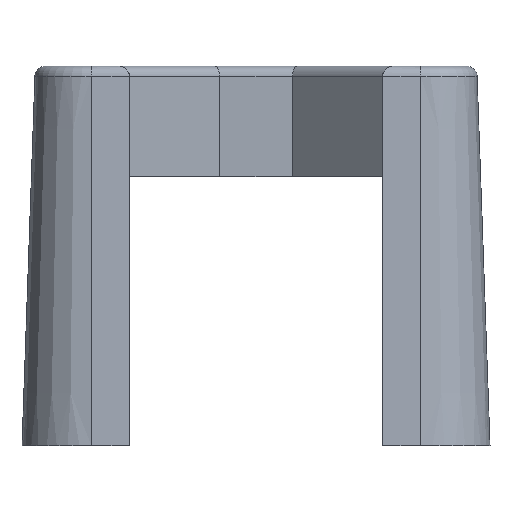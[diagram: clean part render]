
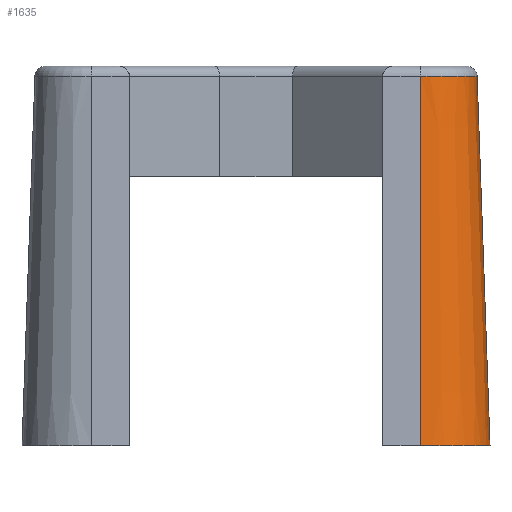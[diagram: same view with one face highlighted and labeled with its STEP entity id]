
A CAD part, front view. The second image highlights one B-rep face of the part: STEP entity #1635.
In plain terms, the highlighted conical face has half-angle 2 degrees and reference radius 5.7 mm.
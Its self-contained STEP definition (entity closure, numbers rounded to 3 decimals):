
#892=CARTESIAN_POINT('',(243.366,100.852,9.535));
#893=VERTEX_POINT('',#892);
#924=CARTESIAN_POINT('',(237.999,95.484,9.535));
#925=VERTEX_POINT('',#924);
#933=CARTESIAN_POINT('',(237.999,100.852,9.535));
#934=DIRECTION('',(0.0,0.0,1.));
#935=DIRECTION('',(0.707,-0.707,0.0));
#936=AXIS2_PLACEMENT_3D('',#933,#934,#935);
#937=CIRCLE('',#936,5.367);
#938=EDGE_CURVE('',#925,#893,#937,.T.);
#1593=CARTESIAN_POINT('',(244.59,100.852,-25.5));
#1594=VERTEX_POINT('',#1593);
#1595=CARTESIAN_POINT('',(243.366,100.852,9.535));
#1596=DIRECTION('',(0.035,0.0,-0.999));
#1597=VECTOR('',#1596,35.056);
#1598=LINE('',#1595,#1597);
#1599=EDGE_CURVE('',#893,#1594,#1598,.T.);
#1611=CARTESIAN_POINT('',(237.999,100.852,0.0));
#1612=DIRECTION('',(0.0,0.0,-1.0));
#1613=DIRECTION('',(1.0,0.0,0.0));
#1614=AXIS2_PLACEMENT_3D('',#1611,#1612,#1613);
#1615=CONICAL_SURFACE('',#1614,5.7,2.0);
#1616=ORIENTED_EDGE('',*,*,#938,.F.);
#1617=CARTESIAN_POINT('',(237.999,94.261,-25.5));
#1618=VERTEX_POINT('',#1617);
#1619=CARTESIAN_POINT('',(237.999,95.484,9.535));
#1620=DIRECTION('',(0.,-0.035,-0.999));
#1621=VECTOR('',#1620,35.056);
#1622=LINE('',#1619,#1621);
#1623=EDGE_CURVE('',#925,#1618,#1622,.T.);
#1624=ORIENTED_EDGE('',*,*,#1623,.T.);
#1625=CARTESIAN_POINT('',(237.999,100.852,-25.5));
#1626=DIRECTION('',(0.0,0.0,1.0));
#1627=DIRECTION('',(1.0,0.0,0.0));
#1628=AXIS2_PLACEMENT_3D('',#1625,#1626,#1627);
#1629=CIRCLE('',#1628,6.59);
#1630=EDGE_CURVE('',#1618,#1594,#1629,.T.);
#1631=ORIENTED_EDGE('',*,*,#1630,.T.);
#1632=ORIENTED_EDGE('',*,*,#1599,.F.);
#1633=EDGE_LOOP('',(#1616,#1624,#1631,#1632));
#1634=FACE_OUTER_BOUND('',#1633,.T.);
#1635=ADVANCED_FACE('',(#1634),#1615,.T.);
